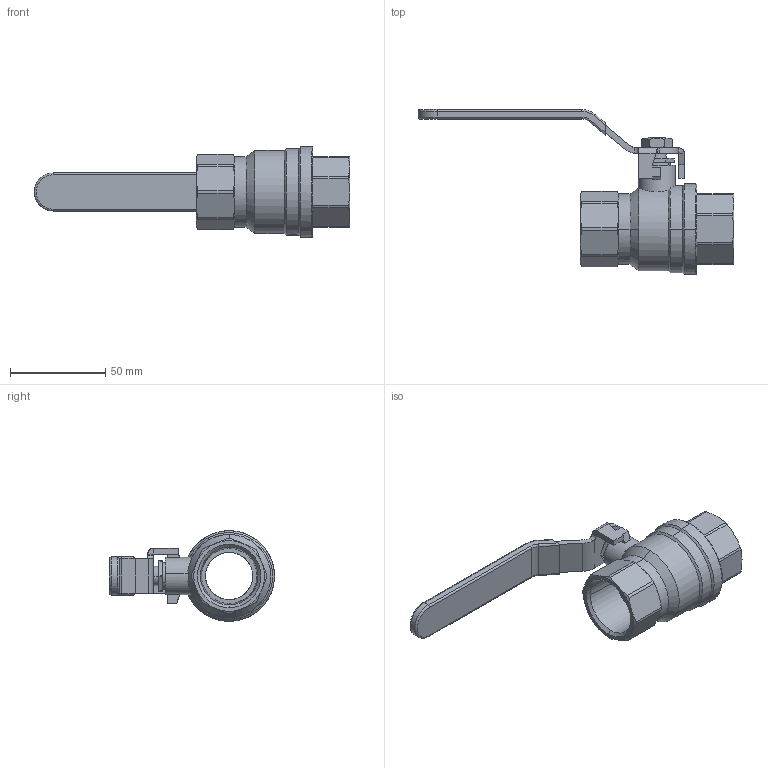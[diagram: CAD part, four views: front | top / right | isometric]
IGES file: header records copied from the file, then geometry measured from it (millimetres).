
Global section: file name: No Iges File Name specified; native system: AutoDesk Inventor R12.0; preprocessor: AutoDesk Inventor Iges Exporter R12.0; date: 20110127.145321; units: millimetre
Bounding box: 165.4 x 86.46 x 47.5 mm (x, y, z)
Volume: 81625.2 mm3; surface area: 47359.9 mm2
Topology: 7 solids, 7 shells, 1588 faces, 4276 edges, 2841 vertices
Faces by surface type: plane 815, bspline 533, revolution 74, cylinder 73, cone 65, torus 24, sphere 4
